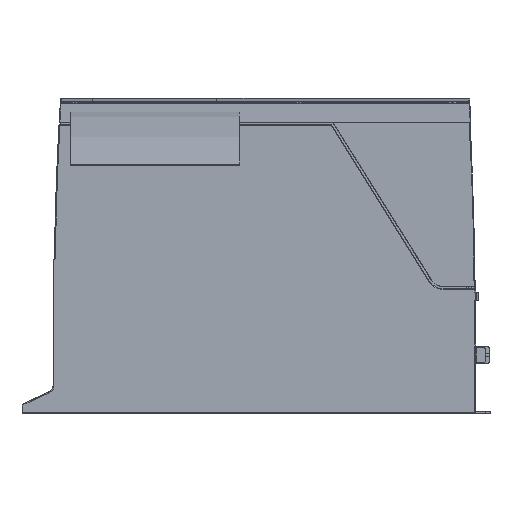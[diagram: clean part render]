
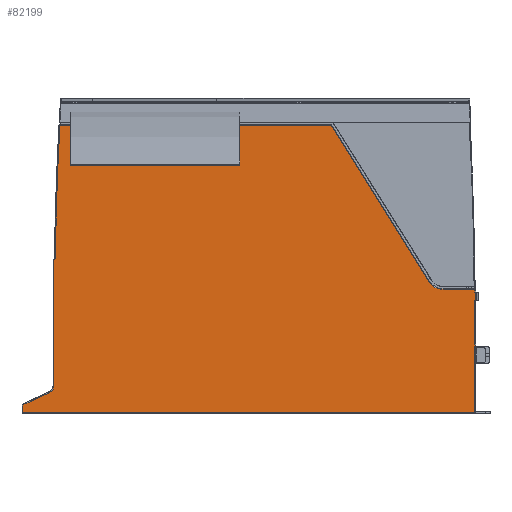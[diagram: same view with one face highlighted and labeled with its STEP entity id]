
A CAD part, left-side view. The second image highlights one B-rep face of the part: STEP entity #82199.
In plain terms, the highlighted planar face has unit normal (-1, 0, 0).
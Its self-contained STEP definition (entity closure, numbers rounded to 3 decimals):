
#14200=DIRECTION('',(0.,0.,-1.));
#14201=VECTOR('',#14200,5.422);
#14202=CARTESIAN_POINT('',(-56.,33.842,
-170.919));
#14203=LINE('',#14202,#14201);
#14208=DIRECTION('',(0.,-0.906,0.423));
#14209=VECTOR('',#14208,20.669);
#14210=CARTESIAN_POINT('',(-56.,33.842,
-170.919));
#14211=LINE('',#14210,#14209);
#14212=CARTESIAN_POINT('',(-56.,17.5,-157.056));
#14213=DIRECTION('',(-1.,0.,0.));
#14214=DIRECTION('',(0.,-0.423,-0.906));
#14215=AXIS2_PLACEMENT_3D('',#14212,#14213,#14214);
#14217=DIRECTION('',(0.,-0.707,0.707));
#14218=VECTOR('',#14217,1.003);
#14219=CARTESIAN_POINT('',(-56.,11.842,
-68.272));
#14220=LINE('',#14219,#14218);
#14221=CARTESIAN_POINT('',(-56.,11.133,
-67.563));
#14222=CARTESIAN_POINT('',(-56.,11.071,
-67.501));
#14223=CARTESIAN_POINT('',(-56.,10.968,
-67.366));
#14224=CARTESIAN_POINT('',(-56.,10.866,
-67.125));
#14225=CARTESIAN_POINT('',(-56.,10.842,
-66.957));
#14226=CARTESIAN_POINT('',(-56.,10.841,
-66.869));
#14228=CARTESIAN_POINT('',(-56.,-2188.322,-95.));
#14229=DIRECTION('',(1.,0.,0.));
#14230=DIRECTION('',(0.,1.,0.013));
#14231=AXIS2_PLACEMENT_3D('',#14228,#14229,#14230);
#14233=DIRECTION('',(0.,-0.53,-0.848));
#14234=VECTOR('',#14233,130.531);
#14235=CARTESIAN_POINT('',(-56.,-184.937,
27.342));
#14236=LINE('',#14235,#14234);
#14237=CARTESIAN_POINT('',(-56.,-264.278,-77.));
#14238=DIRECTION('',(-1.,0.,0.));
#14239=DIRECTION('',(0.,0.848,-0.53));
#14240=AXIS2_PLACEMENT_3D('',#14237,#14238,#14239);
#14249=DIRECTION('',(0.,0.,1.));
#14250=VECTOR('',#14249,2.096);
#14251=CARTESIAN_POINT('',(-56.,-286.843,
-91.087));
#14252=LINE('',#14251,#14250);
#14268=DIRECTION('',(0.,1.,0.));
#14269=VECTOR('',#14268,0.319);
#14270=CARTESIAN_POINT('',(-56.,-287.161,
-91.087));
#14271=LINE('',#14270,#14269);
#14428=DIRECTION('',(0.,0.,1.));
#14429=VECTOR('',#14428,5.825);
#14430=CARTESIAN_POINT('',(-56.,-287.161,
-96.913));
#14431=LINE('',#14430,#14429);
#14440=DIRECTION('',(0.,-1.,0.));
#14441=VECTOR('',#14440,0.32);
#14442=CARTESIAN_POINT('',(-56.,-286.841,
-96.913));
#14443=LINE('',#14442,#14441);
#14466=DIRECTION('',(0.,0.,1.));
#14467=VECTOR('',#14466,79.428);
#14468=CARTESIAN_POINT('',(-56.,-286.841,
-176.341));
#14469=LINE('',#14468,#14467);
#14494=DIRECTION('',(0.,-1.,0.));
#14495=VECTOR('',#14494,320.683);
#14496=CARTESIAN_POINT('',(-56.,33.841,
-176.341));
#14497=LINE('',#14496,#14495);
#22607=DIRECTION('',(0.,1.,0.));
#22608=VECTOR('',#22607,22.565);
#22609=CARTESIAN_POINT('',(-56.,-286.843,-88.991));
#22610=LINE('',#22609,#22608);
#22663=DIRECTION('',(0.,1.,0.));
#22664=VECTOR('',#22663,192.553);
#22665=CARTESIAN_POINT('',(-56.,-184.937,
27.342));
#22666=LINE('',#22665,#22664);
#31790=DIRECTION('',(0.,0.,-1.));
#31791=VECTOR('',#31790,88.783);
#31792=CARTESIAN_POINT('',(-56.,11.842,
-68.272));
#31793=LINE('',#31792,#31791);
#43001=CARTESIAN_POINT('',(-56.,33.841,
-176.343));
#43002=VERTEX_POINT('',#43001);
#43003=CARTESIAN_POINT('',(-56.,33.842,
-170.919));
#43004=VERTEX_POINT('',#43003);
#43005=CARTESIAN_POINT('',(-56.,-286.843,
-91.087));
#43006=CARTESIAN_POINT('',(-56.,-286.843,-88.991));
#43007=VERTEX_POINT('',#43005);
#43008=VERTEX_POINT('',#43006);
#43009=CARTESIAN_POINT('',(-56.,-287.161,
-91.087));
#43010=VERTEX_POINT('',#43009);
#43011=CARTESIAN_POINT('',(-56.,-287.161,
-96.913));
#43012=VERTEX_POINT('',#43011);
#43013=CARTESIAN_POINT('',(-56.,-286.841,
-96.913));
#43014=VERTEX_POINT('',#43013);
#43015=CARTESIAN_POINT('',(-56.,-286.841,
-176.341));
#43016=VERTEX_POINT('',#43015);
#43017=CARTESIAN_POINT('',(-56.,15.109,
-162.183));
#43018=VERTEX_POINT('',#43017);
#43019=CARTESIAN_POINT('',(-56.,11.843,-157.055));
#43020=VERTEX_POINT('',#43019);
#43021=CARTESIAN_POINT('',(-56.,11.842,
-68.272));
#43022=VERTEX_POINT('',#43021);
#43023=CARTESIAN_POINT('',(-56.,11.133,
-67.563));
#43024=VERTEX_POINT('',#43023);
#43025=VERTEX_POINT('',#14226);
#43026=CARTESIAN_POINT('',(-56.,7.615,27.342));
#43027=VERTEX_POINT('',#43026);
#43028=CARTESIAN_POINT('',(-56.,-184.937,
27.342));
#43029=VERTEX_POINT('',#43028);
#43030=CARTESIAN_POINT('',(-56.,-254.108,
-83.354));
#43031=VERTEX_POINT('',#43030);
#43032=CARTESIAN_POINT('',(-56.,-264.278,-88.991));
#43033=VERTEX_POINT('',#43032);
#82159=CARTESIAN_POINT('',(-56.,12.5,-175.5));
#82160=DIRECTION('',(-1.,0.,0.));
#82161=DIRECTION('',(0.,0.,1.));
#82162=AXIS2_PLACEMENT_3D('',#82159,#82160,#82161);
#82163=PLANE('',#82162);
#82165=ORIENTED_EDGE('',*,*,#82164,.F.);
#82167=ORIENTED_EDGE('',*,*,#82166,.F.);
#82169=ORIENTED_EDGE('',*,*,#82168,.F.);
#82171=ORIENTED_EDGE('',*,*,#82170,.F.);
#82173=ORIENTED_EDGE('',*,*,#82172,.F.);
#82175=ORIENTED_EDGE('',*,*,#82174,.F.);
#82176=ORIENTED_EDGE('',*,*,#82143,.F.);
#82178=ORIENTED_EDGE('',*,*,#82177,.T.);
#82180=ORIENTED_EDGE('',*,*,#82179,.T.);
#82182=ORIENTED_EDGE('',*,*,#82181,.F.);
#82184=ORIENTED_EDGE('',*,*,#82183,.T.);
#82186=ORIENTED_EDGE('',*,*,#82185,.T.);
#82188=ORIENTED_EDGE('',*,*,#82187,.T.);
#82190=ORIENTED_EDGE('',*,*,#82189,.F.);
#82192=ORIENTED_EDGE('',*,*,#82191,.T.);
#82194=ORIENTED_EDGE('',*,*,#82193,.T.);
#82196=ORIENTED_EDGE('',*,*,#82195,.F.);
#82197=EDGE_LOOP('',(#82165,#82167,#82169,#82171,#82173,#82175,#82176,#82178,
#82180,#82182,#82184,#82186,#82188,#82190,#82192,#82194,#82196));
#82198=FACE_OUTER_BOUND('',#82197,.F.);
#14216=CIRCLE('',#14215,5.657);
#14227=B_SPLINE_CURVE_WITH_KNOTS('',3,(#14221,#14222,#14223,#14224,#14225,
#14226),.UNSPECIFIED.,.F.,.F.,(4,1,1,4),(0.,0.333,
0.667,1.),.UNSPECIFIED.);
#14232=CIRCLE('',#14231,2199.343);
#14241=CIRCLE('',#14240,11.991);
#82143=EDGE_CURVE('',#43004,#43002,#14203,.T.);
#82164=EDGE_CURVE('',#43007,#43008,#14252,.T.);
#82166=EDGE_CURVE('',#43010,#43007,#14271,.T.);
#82168=EDGE_CURVE('',#43012,#43010,#14431,.T.);
#82170=EDGE_CURVE('',#43014,#43012,#14443,.T.);
#82172=EDGE_CURVE('',#43016,#43014,#14469,.T.);
#82174=EDGE_CURVE('',#43002,#43016,#14497,.T.);
#82177=EDGE_CURVE('',#43004,#43018,#14211,.T.);
#82179=EDGE_CURVE('',#43018,#43020,#14216,.T.);
#82181=EDGE_CURVE('',#43022,#43020,#31793,.T.);
#82183=EDGE_CURVE('',#43022,#43024,#14220,.T.);
#82185=EDGE_CURVE('',#43024,#43025,#14227,.T.);
#82187=EDGE_CURVE('',#43025,#43027,#14232,.T.);
#82189=EDGE_CURVE('',#43029,#43027,#22666,.T.);
#82191=EDGE_CURVE('',#43029,#43031,#14236,.T.);
#82193=EDGE_CURVE('',#43031,#43033,#14241,.T.);
#82195=EDGE_CURVE('',#43008,#43033,#22610,.T.);
#82199=ADVANCED_FACE('',(#82198),#82163,.T.);
